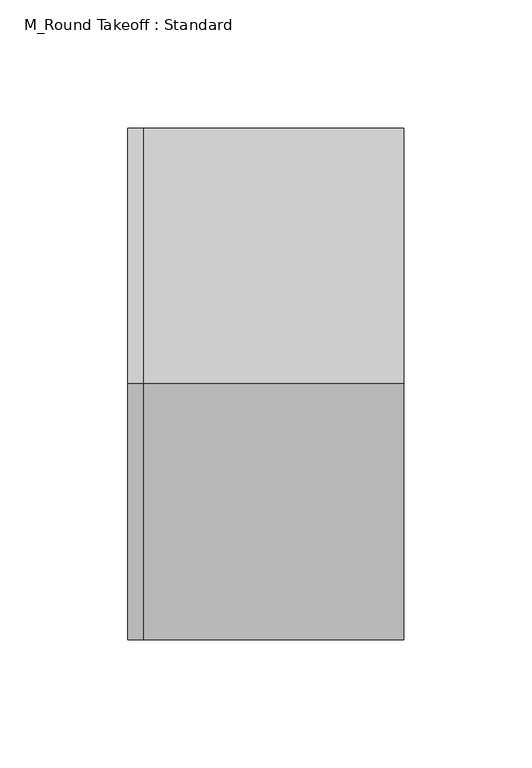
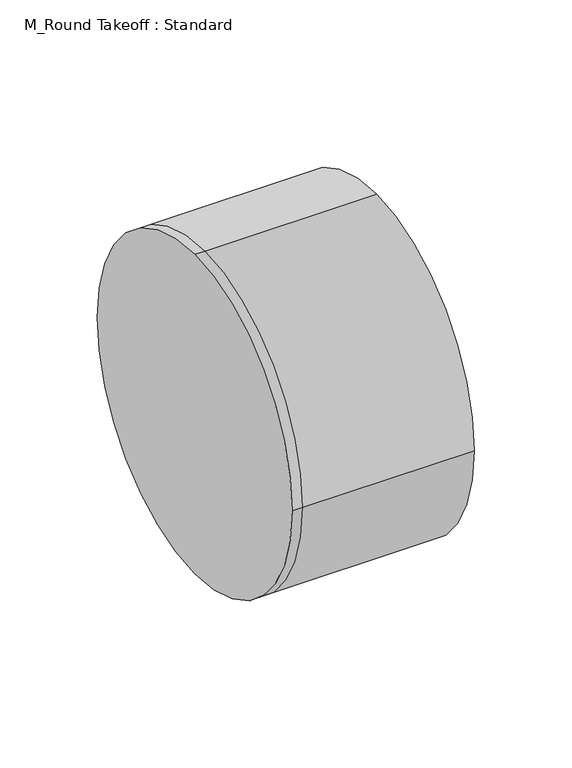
"""IFC4 building model written with IfcOpenShell, lengths in millimetres: duct fitting geometry, M_Round Takeoff : Standard."""

from ifc_helpers import new_model, si_unit, frame, origin, place, context, project, spatial, circle_curve, source, transform, mapped, element, save
from ifc_brep_helpers import plane_surface, cylinder_surface, advanced_brep


def m_round_takeoff_standard_9181ff1a(model_context):
    return source(origin(), model_context, "Body", "AdvancedBrep", [
        advanced_brep(
        [(101.6, 0.0, 100.0), (101.6, -100.0, 0.0), (101.6, 0.0, -100.0), (101.6, 100.0, 0.0), (0.0, 0.0, 100.0), (0.0, -100.0, 0.0), (0.0, 0.0, -100.0), (0.0, 100.0, 0.0), (-6.096, 0.0, 100.0), (-6.096, 100.0, 0.0), (-6.096, 0.0, -100.0), (-6.096, -100.0, 0.0)],
        [
            (0, 1, circle_curve(frame((101.6, 0.0, 0.0), z_axis=(1.0, 0.0, 0.0), x_axis=(0.0, -1.0, 0.0)), 100.0)),
            (1, 2, circle_curve(frame((101.6, 0.0, 0.0), z_axis=(1.0, 0.0, 0.0), x_axis=(0.0, -1.0, 0.0)), 100.0)),
            (2, 3, circle_curve(frame((101.6, 0.0, 0.0), z_axis=(1.0, 0.0, 0.0), x_axis=(0.0, -1.0, 0.0)), 100.0)),
            (3, 0, circle_curve(frame((101.6, 0.0, 0.0), z_axis=(1.0, 0.0, 0.0), x_axis=(0.0, -1.0, 0.0)), 100.0)),
            (0, 4),
            (4, 5, circle_curve(frame((0.0, 0.0, 0.0), z_axis=(1.0, 0.0, 0.0), x_axis=(0.0, -1.0, 0.0)), 100.0)),
            (5, 1),
            (5, 6, circle_curve(frame((0.0, 0.0, 0.0), z_axis=(1.0, 0.0, 0.0), x_axis=(0.0, -1.0, 0.0)), 100.0)),
            (6, 2),
            (6, 7, circle_curve(frame((0.0, 0.0, 0.0), z_axis=(1.0, 0.0, 0.0), x_axis=(0.0, -1.0, 0.0)), 100.0)),
            (7, 3),
            (7, 4, circle_curve(frame((0.0, 0.0, 0.0), z_axis=(1.0, 0.0, 0.0), x_axis=(0.0, -1.0, 0.0)), 100.0)),
            (8, 9, circle_curve(frame((-6.096, 0.0, 0.0), z_axis=(-1.0, 0.0, 0.0), x_axis=(0.0, -1.0, 0.0)), 100.0)),
            (9, 10, circle_curve(frame((-6.096, 0.0, 0.0), z_axis=(-1.0, 0.0, 0.0), x_axis=(0.0, -1.0, 0.0)), 100.0)),
            (10, 11, circle_curve(frame((-6.096, 0.0, 0.0), z_axis=(-1.0, 0.0, 0.0), x_axis=(0.0, -1.0, 0.0)), 100.0)),
            (11, 8, circle_curve(frame((-6.096, 0.0, 0.0), z_axis=(-1.0, 0.0, 0.0), x_axis=(0.0, -1.0, 0.0)), 100.0)),
            (11, 5),
            (4, 8),
            (10, 6),
            (9, 7),
        ],
        [
            plane_surface(frame((101.6, 0.0, 0.0), z_axis=(1.0, 0.0, 0.0), x_axis=(0.0, 0.0, 1.0))),
            cylinder_surface(frame((0.0, 0.0, 0.0), z_axis=(-1.0, 0.0, 0.0), x_axis=(0.0, -1.0, 0.0)), 100.0),
            plane_surface(frame((-6.096, 0.0, 0.0), z_axis=(-1.0, 0.0, 0.0), x_axis=(0.0, 0.0, 1.0))),
            cylinder_surface(frame((-6.096, 0.0, 0.0), z_axis=(-1.0, 0.0, 0.0), x_axis=(0.0, -1.0, 0.0)), 100.0),
        ],
        [
            (0, [[1, 2, 3, 4]]),
            (1, [[5, 6, 7, -1]]),
            (1, [[-7, 8, 9, -2]]),
            (1, [[-9, 10, 11, -3]]),
            (1, [[-11, 12, -5, -4]]),
            (2, [[13, 14, 15, 16]]),
            (3, [[17, -6, 18, -16]]),
            (3, [[19, -8, -17, -15]]),
            (3, [[20, -10, -19, -14]]),
            (3, [[-18, -12, -20, -13]]),
        ],
    ),
    ])


if __name__ == "__main__":
    model = new_model("IFC4")
    model_context = context("Model", 3, world=origin())
    ifc_project = project(units=[si_unit("LENGTHUNIT", "METRE", prefix="MILLI")], contexts=[model_context])
    site = spatial("IfcSite", under=ifc_project)
    building = spatial("IfcBuilding", under=site)
    placement = place(None, origin())
    m_round_takeoff_standard_shape = m_round_takeoff_standard_9181ff1a(model_context)
    element("IfcDuctFitting", 1, ObjectType="M_Round Takeoff : Standard", at=placement, inside=building, context=model_context, shape_type="MappedRepresentation", body=[
        mapped(m_round_takeoff_standard_shape, transform((0.0, 0.0, 0.0), x_axis=(1.0, 0.0, 0.0), y_axis=(0.0, 1.0, 0.0), z_axis=(0.0, 0.0, 1.0))),
    ])
    save(model, "model.ifc")
